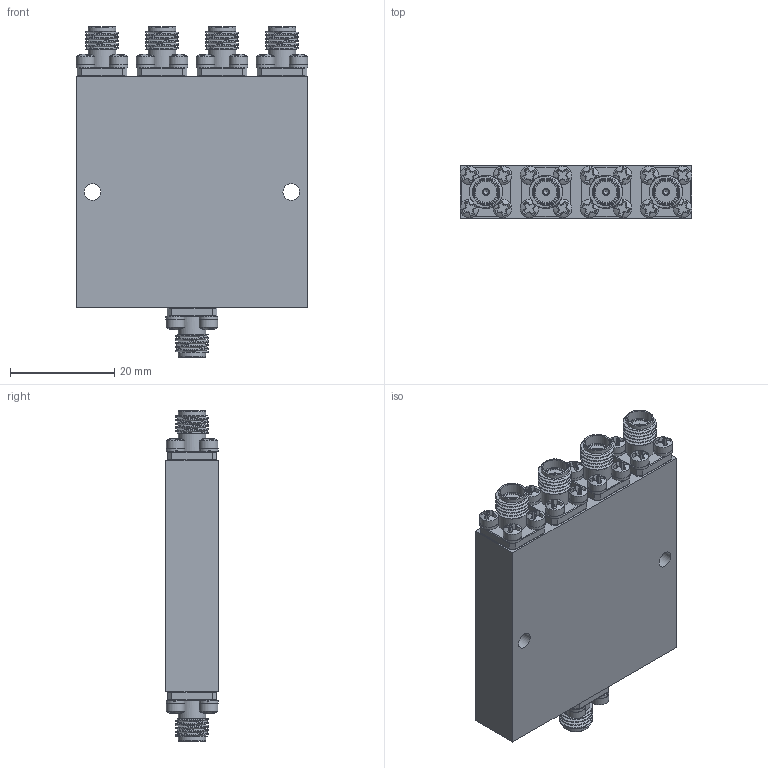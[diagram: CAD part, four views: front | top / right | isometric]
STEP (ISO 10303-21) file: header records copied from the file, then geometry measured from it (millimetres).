
FILE_DESCRIPTION (( 'STEP AP214' ), '1' );
FILE_NAME ('APD-4-218-LC-2.STEP', '2026-08-21T21:24:49', ( '' ), ( '' ), 'SwSTEP 2.0', 'SolidWorks 2025', '' );
FILE_SCHEMA (( 'AUTOMOTIVE_DESIGN' ));
Length unit declared in the file: inch
Products named in the file (1): APD-4-218-LC-2
Bounding box: 44.48 x 10.21 x 63.35 mm (x, y, z)
Volume: 22092.5 mm3; surface area: 14388.8 mm2
Topology: 67 solids, 67 shells, 1243 faces, 3669 edges, 2766 vertices
Faces by surface type: plane 744, cylinder 244, torus 115, cone 110, sphere 20, bspline 10
Full cylindrical faces by diameter (mm): 0.305 x5, 0.381 x5, 0.635 x5, 1.016 x5, 1.27 x5, 1.702 x20, 2.184 x20, 3.175 x2, 3.302 x5, 3.556 x20, 4.191 x10, 4.597 x5, 5.283 x10
Entity records: 63696 total; most frequent: CARTESIAN_POINT 15723, ORIENTED_EDGE 6734, DIRECTION 6276, EDGE_CURVE 3367, VERTEX_POINT 2726, AXIS2_PLACEMENT_3D 2284, EDGE_LOOP 1755, VECTOR 1708
